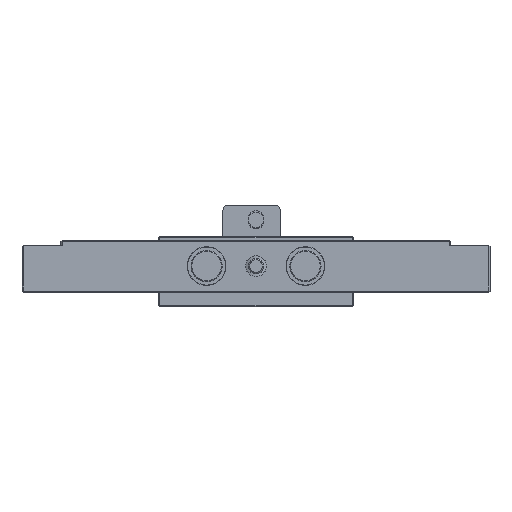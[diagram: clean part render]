
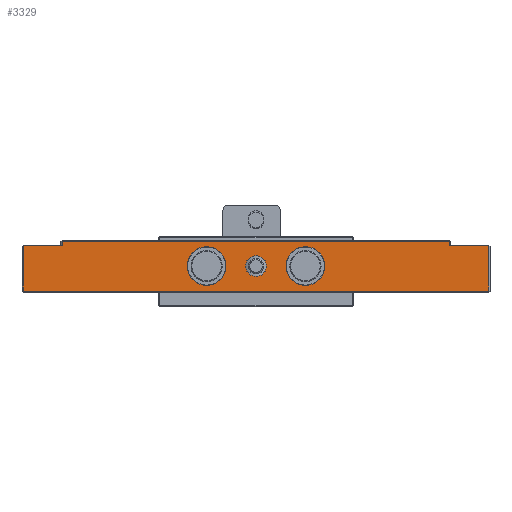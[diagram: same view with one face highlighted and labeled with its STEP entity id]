
A CAD part, top view. The second image highlights one B-rep face of the part: STEP entity #3329.
In plain terms, the highlighted planar face has unit normal (0, 0, 1) as drawn and (0, 0, -1) by its records, which use the part's own axes.
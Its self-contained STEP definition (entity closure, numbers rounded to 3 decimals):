
#70 = DIRECTION ( 'NONE',  ( 1., 0., 0. ) ) ;
#164 = EDGE_CURVE ( 'NONE', #816, #5155, #5084, .T. ) ;
#239 = ORIENTED_EDGE ( 'NONE', *, *, #3280, .T. ) ;
#451 = CARTESIAN_POINT ( 'NONE',  ( 19., 0., -37.5 ) ) ;
#475 = CARTESIAN_POINT ( 'NONE',  ( -74.6, 9.6, -37.5 ) ) ;
#575 = AXIS2_PLACEMENT_3D ( 'NONE', #451, #8258, #1560 ) ;
#763 = DIRECTION ( 'NONE',  ( 0., 0., -1. ) ) ;
#816 = VERTEX_POINT ( 'NONE', #5951 ) ;
#982 = CIRCLE ( 'NONE', #575, 7.45 ) ;
#1035 = CARTESIAN_POINT ( 'NONE',  ( 26.45, 0., -37.5 ) ) ;
#1433 = EDGE_CURVE ( 'NONE', #14232, #4626, #3835, .T. ) ;
#1560 = DIRECTION ( 'NONE',  ( 1., 0., 0. ) ) ;
#1904 = EDGE_CURVE ( 'NONE', #8630, #5290, #7122, .T. ) ;
#2059 = CARTESIAN_POINT ( 'NONE',  ( 11.55, 0., -37.5 ) ) ;
#2195 = DIRECTION ( 'NONE',  ( 1., 0., 0. ) ) ;
#2236 = LINE ( 'NONE', #11765, #10546 ) ;
#2301 = EDGE_CURVE ( 'NONE', #3879, #8005, #10894, .T. ) ;
#2377 = EDGE_CURVE ( 'NONE', #4432, #14393, #4846, .T. ) ;
#2553 = CARTESIAN_POINT ( 'NONE',  ( 0., 0., -37.5 ) ) ;
#2819 = AXIS2_PLACEMENT_3D ( 'NONE', #2921, #2869, #2195 ) ;
#2869 = DIRECTION ( 'NONE',  ( 0., 0., -1. ) ) ;
#2921 = CARTESIAN_POINT ( 'NONE',  ( -19., 0., -37.5 ) ) ;
#3004 = AXIS2_PLACEMENT_3D ( 'NONE', #2553, #10445, #3682 ) ;
#3248 = ORIENTED_EDGE ( 'NONE', *, *, #5205, .T. ) ;
#3280 = EDGE_CURVE ( 'NONE', #8005, #14087, #2236, .T. ) ;
#3329 = ADVANCED_FACE ( 'NONE', ( #10175, #4178, #7465, #12818 ), #6176, .F. ) ;
#3335 = CARTESIAN_POINT ( 'NONE',  ( -11.55, 0., -37.5 ) ) ;
#3407 = ORIENTED_EDGE ( 'NONE', *, *, #10077, .F. ) ;
#3487 = DIRECTION ( 'NONE',  ( 0., 1., 0. ) ) ;
#3619 = EDGE_LOOP ( 'NONE', ( #12136, #3407 ) ) ;
#3682 = DIRECTION ( 'NONE',  ( 1., 0., 0. ) ) ;
#3831 = CARTESIAN_POINT ( 'NONE',  ( 4., 0., -37.5 ) ) ;
#3835 = LINE ( 'NONE', #9616, #9471 ) ;
#3879 = VERTEX_POINT ( 'NONE', #6631 ) ;
#4130 = EDGE_CURVE ( 'NONE', #9866, #8246, #982, .T. ) ;
#4168 = VECTOR ( 'NONE', #12032, 1000. ) ;
#4178 = FACE_BOUND ( 'NONE', #6222, .T. ) ;
#4195 = DIRECTION ( 'NONE',  ( -1., 0., 0. ) ) ;
#4213 = VECTOR ( 'NONE', #3487, 1000. ) ;
#4432 = VERTEX_POINT ( 'NONE', #11430 ) ;
#4626 = VERTEX_POINT ( 'NONE', #10826 ) ;
#4663 = EDGE_CURVE ( 'NONE', #8246, #9866, #9228, .T. ) ;
#4703 = EDGE_CURVE ( 'NONE', #3879, #10082, #13764, .T. ) ;
#4846 = LINE ( 'NONE', #11968, #4168 ) ;
#5084 = CIRCLE ( 'NONE', #2819, 7.45 ) ;
#5155 = VERTEX_POINT ( 'NONE', #3335 ) ;
#5205 = EDGE_CURVE ( 'NONE', #14232, #4432, #8857, .T. ) ;
#5290 = VERTEX_POINT ( 'NONE', #11488 ) ;
#5930 = DIRECTION ( 'NONE',  ( -1., 0., 0. ) ) ;
#5950 = LINE ( 'NONE', #10344, #8611 ) ;
#5951 = CARTESIAN_POINT ( 'NONE',  ( -26.45, 0., -37.5 ) ) ;
#5981 = DIRECTION ( 'NONE',  ( 0., 0., 1. ) ) ;
#6146 = CARTESIAN_POINT ( 'NONE',  ( 89.6, 8., -37.5 ) ) ;
#6176 = PLANE ( 'NONE',  #14439 ) ;
#6222 = EDGE_LOOP ( 'NONE', ( #10580, #8520 ) ) ;
#6631 = CARTESIAN_POINT ( 'NONE',  ( -74.6, 8., -37.5 ) ) ;
#6730 = CARTESIAN_POINT ( 'NONE',  ( 89.6, -10., -37.5 ) ) ;
#6744 = DIRECTION ( 'NONE',  ( 0., 0., -1. ) ) ;
#6883 = DIRECTION ( 'NONE',  ( 0., -1., 0. ) ) ;
#6982 = CARTESIAN_POINT ( 'NONE',  ( -89.6, 8., -37.5 ) ) ;
#7122 = CIRCLE ( 'NONE', #11696, 4. ) ;
#7190 = CARTESIAN_POINT ( 'NONE',  ( 90., -10., -37.5 ) ) ;
#7263 = ORIENTED_EDGE ( 'NONE', *, *, #8678, .T. ) ;
#7440 = CARTESIAN_POINT ( 'NONE',  ( 19., 0., -37.5 ) ) ;
#7465 = FACE_BOUND ( 'NONE', #3619, .T. ) ;
#8005 = VERTEX_POINT ( 'NONE', #475 ) ;
#8212 = ORIENTED_EDGE ( 'NONE', *, *, #4130, .F. ) ;
#8246 = VERTEX_POINT ( 'NONE', #2059 ) ;
#8258 = DIRECTION ( 'NONE',  ( 0., 0., -1. ) ) ;
#8261 = AXIS2_PLACEMENT_3D ( 'NONE', #7440, #763, #8608 ) ;
#8269 = ORIENTED_EDGE ( 'NONE', *, *, #2377, .T. ) ;
#8503 = EDGE_CURVE ( 'NONE', #14087, #4626, #5950, .T. ) ;
#8520 = ORIENTED_EDGE ( 'NONE', *, *, #164, .F. ) ;
#8608 = DIRECTION ( 'NONE',  ( 1., 0., 0. ) ) ;
#8611 = VECTOR ( 'NONE', #6883, 1000. ) ;
#8630 = VERTEX_POINT ( 'NONE', #3831 ) ;
#8678 = EDGE_CURVE ( 'NONE', #14393, #10082, #9494, .T. ) ;
#8857 = LINE ( 'NONE', #6730, #11906 ) ;
#9216 = CARTESIAN_POINT ( 'NONE',  ( 74.6, 9.6, -37.5 ) ) ;
#9228 = CIRCLE ( 'NONE', #8261, 7.45 ) ;
#9309 = AXIS2_PLACEMENT_3D ( 'NONE', #13503, #6744, #70 ) ;
#9462 = DIRECTION ( 'NONE',  ( -1., 0., 0. ) ) ;
#9471 = VECTOR ( 'NONE', #9462, 1000. ) ;
#9494 = LINE ( 'NONE', #13576, #4213 ) ;
#9609 = DIRECTION ( 'NONE',  ( 1., 0., 0. ) ) ;
#9616 = CARTESIAN_POINT ( 'NONE',  ( 90., 8., -37.5 ) ) ;
#9648 = DIRECTION ( 'NONE',  ( 0., 0., -1. ) ) ;
#9697 = CARTESIAN_POINT ( 'NONE',  ( 0., 0., -37.5 ) ) ;
#9783 = CARTESIAN_POINT ( 'NONE',  ( -89.6, -9.6, -37.5 ) ) ;
#9866 = VERTEX_POINT ( 'NONE', #1035 ) ;
#9911 = EDGE_CURVE ( 'NONE', #5155, #816, #12995, .T. ) ;
#10077 = EDGE_CURVE ( 'NONE', #5290, #8630, #11613, .T. ) ;
#10082 = VERTEX_POINT ( 'NONE', #6982 ) ;
#10175 = FACE_BOUND ( 'NONE', #13940, .T. ) ;
#10344 = CARTESIAN_POINT ( 'NONE',  ( 74.6, -10., -37.5 ) ) ;
#10445 = DIRECTION ( 'NONE',  ( 0., 0., -1. ) ) ;
#10467 = DIRECTION ( 'NONE',  ( 1., 0., 0. ) ) ;
#10522 = EDGE_LOOP ( 'NONE', ( #12495, #11507, #3248, #8269, #7263, #13718, #13115, #239 ) ) ;
#10546 = VECTOR ( 'NONE', #10467, 1000. ) ;
#10580 = ORIENTED_EDGE ( 'NONE', *, *, #9911, .F. ) ;
#10826 = CARTESIAN_POINT ( 'NONE',  ( 74.6, 8., -37.5 ) ) ;
#10855 = VECTOR ( 'NONE', #4195, 1000. ) ;
#10894 = LINE ( 'NONE', #14176, #13798 ) ;
#11177 = ORIENTED_EDGE ( 'NONE', *, *, #4663, .F. ) ;
#11430 = CARTESIAN_POINT ( 'NONE',  ( 89.6, -9.6, -37.5 ) ) ;
#11488 = CARTESIAN_POINT ( 'NONE',  ( -4., 0., -37.5 ) ) ;
#11507 = ORIENTED_EDGE ( 'NONE', *, *, #1433, .F. ) ;
#11613 = CIRCLE ( 'NONE', #3004, 4. ) ;
#11696 = AXIS2_PLACEMENT_3D ( 'NONE', #9697, #9648, #9609 ) ;
#11765 = CARTESIAN_POINT ( 'NONE',  ( 75., 9.6, -37.5 ) ) ;
#11906 = VECTOR ( 'NONE', #13494, 1000. ) ;
#11968 = CARTESIAN_POINT ( 'NONE',  ( 90., -9.6, -37.5 ) ) ;
#12032 = DIRECTION ( 'NONE',  ( -1., 0., 0. ) ) ;
#12105 = CARTESIAN_POINT ( 'NONE',  ( -90., 8., -37.5 ) ) ;
#12136 = ORIENTED_EDGE ( 'NONE', *, *, #1904, .F. ) ;
#12495 = ORIENTED_EDGE ( 'NONE', *, *, #8503, .T. ) ;
#12818 = FACE_OUTER_BOUND ( 'NONE', #10522, .T. ) ;
#12995 = CIRCLE ( 'NONE', #9309, 7.45 ) ;
#13115 = ORIENTED_EDGE ( 'NONE', *, *, #2301, .T. ) ;
#13494 = DIRECTION ( 'NONE',  ( 0., -1., 0. ) ) ;
#13503 = CARTESIAN_POINT ( 'NONE',  ( -19., 0., -37.5 ) ) ;
#13576 = CARTESIAN_POINT ( 'NONE',  ( -89.6, -10., -37.5 ) ) ;
#13718 = ORIENTED_EDGE ( 'NONE', *, *, #4703, .F. ) ;
#13764 = LINE ( 'NONE', #12105, #10855 ) ;
#13780 = DIRECTION ( 'NONE',  ( 0., 1., 0. ) ) ;
#13798 = VECTOR ( 'NONE', #13780, 1000. ) ;
#13940 = EDGE_LOOP ( 'NONE', ( #8212, #11177 ) ) ;
#14087 = VERTEX_POINT ( 'NONE', #9216 ) ;
#14176 = CARTESIAN_POINT ( 'NONE',  ( -74.6, -10., -37.5 ) ) ;
#14232 = VERTEX_POINT ( 'NONE', #6146 ) ;
#14393 = VERTEX_POINT ( 'NONE', #9783 ) ;
#14439 = AXIS2_PLACEMENT_3D ( 'NONE', #7190, #5981, #5930 ) ;
